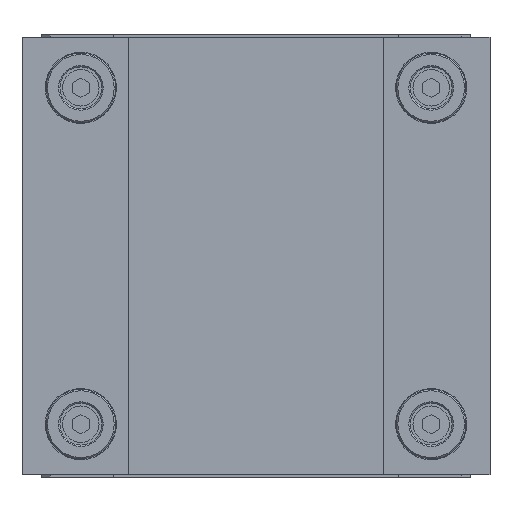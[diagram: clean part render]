
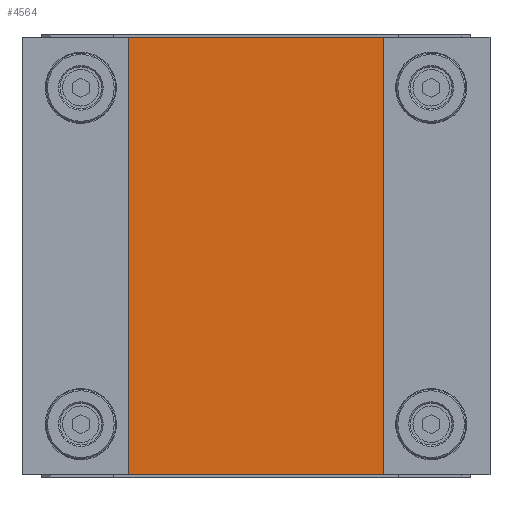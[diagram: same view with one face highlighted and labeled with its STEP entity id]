
A CAD part, front view. The second image highlights one B-rep face of the part: STEP entity #4564.
In plain terms, the highlighted planar face has unit normal (0, -1, 0).
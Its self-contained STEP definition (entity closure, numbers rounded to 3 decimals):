
#1876 = VERTEX_POINT ( 'NONE', #3104 ) ;
#2661 = EDGE_CURVE ( 'NONE', #2915, #1876, #3683, .T. ) ;
#2915 = VERTEX_POINT ( 'NONE', #3928 ) ;
#3104 = CARTESIAN_POINT ( 'NONE',  ( -49.5, -16., -78. ) ) ;
#3683 = LINE ( 'NONE', #3684, #3685 ) ;
#3684 = CARTESIAN_POINT ( 'NONE',  ( -49.5, -16., 78. ) ) ;
#3685 = VECTOR ( 'NONE', #3686, 1000. ) ;
#3686 = DIRECTION ( 'NONE',  ( 0., 0., -1. ) ) ;
#3928 = CARTESIAN_POINT ( 'NONE',  ( -49.5, -16., 78. ) ) ;
#4564 = ADVANCED_FACE ( 'NONE', ( #5278 ), #5279, .F. ) ;
#4875 = EDGE_LOOP ( 'NONE', ( #5365, #6266, #6774, #7643 ) ) ;
#5278 = FACE_OUTER_BOUND ( 'NONE', #4875, .T. ) ;
#5279 = PLANE ( 'NONE',  #5280 ) ;
#5280 = AXIS2_PLACEMENT_3D ( 'NONE', #5281, #5282, #5283 ) ;
#5281 = CARTESIAN_POINT ( 'NONE',  ( 49.5, -16., 78. ) ) ;
#5282 = DIRECTION ( 'NONE',  ( 0., 1., 0. ) ) ;
#5283 = DIRECTION ( 'NONE',  ( -1., 0., 0. ) ) ;
#5365 = ORIENTED_EDGE ( 'NONE', *, *, #5715, .T. ) ;
#5630 = CARTESIAN_POINT ( 'NONE',  ( 49.5, -16., 78. ) ) ;
#5715 = EDGE_CURVE ( 'NONE', #1876, #9509, #6183, .T. ) ;
#6183 = LINE ( 'NONE', #6191, #6192 ) ;
#6191 = CARTESIAN_POINT ( 'NONE',  ( 49.5, -16., -78. ) ) ;
#6192 = VECTOR ( 'NONE', #6193, 1000. ) ;
#6193 = DIRECTION ( 'NONE',  ( 1., 0., 0. ) ) ;
#6266 = ORIENTED_EDGE ( 'NONE', *, *, #10446, .F. ) ;
#6283 = LINE ( 'NONE', #6284, #6285 ) ;
#6284 = CARTESIAN_POINT ( 'NONE',  ( 49.5, -16., 78. ) ) ;
#6285 = VECTOR ( 'NONE', #6288, 1000. ) ;
#6288 = DIRECTION ( 'NONE',  ( 0., 0., -1. ) ) ;
#6774 = ORIENTED_EDGE ( 'NONE', *, *, #7084, .F. ) ;
#7038 = LINE ( 'NONE', #7039, #7040 ) ;
#7039 = CARTESIAN_POINT ( 'NONE',  ( 49.5, -16., 78. ) ) ;
#7040 = VECTOR ( 'NONE', #7041, 1000. ) ;
#7041 = DIRECTION ( 'NONE',  ( 1., 0., 0. ) ) ;
#7084 = EDGE_CURVE ( 'NONE', #2915, #10293, #7038, .T. ) ;
#7643 = ORIENTED_EDGE ( 'NONE', *, *, #2661, .T. ) ;
#8514 = CARTESIAN_POINT ( 'NONE',  ( 49.5, -16., -78. ) ) ;
#9509 = VERTEX_POINT ( 'NONE', #8514 ) ;
#10293 = VERTEX_POINT ( 'NONE', #5630 ) ;
#10446 = EDGE_CURVE ( 'NONE', #10293, #9509, #6283, .T. ) ;
